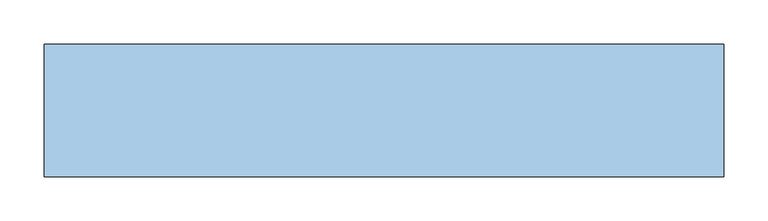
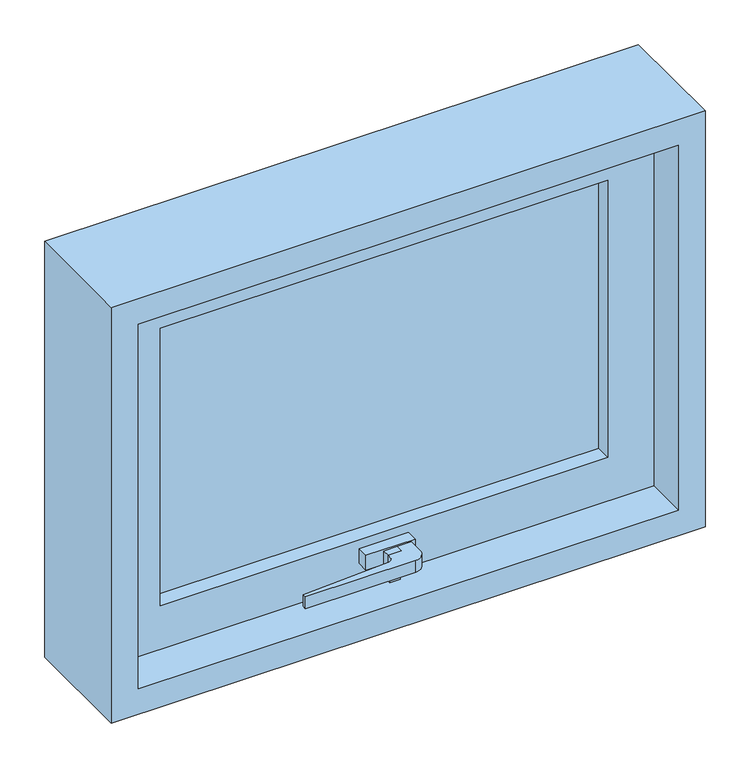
"""IFC4 building model written with IfcOpenShell, lengths in millimetres: window geometry, Janela maxim-ar - 1 Painel Paramétrica : Janela Maxin ar 0.70."""

import ifcopenshell
import ifcopenshell.guid

model = None  # the IFC model being written
_history = None  # IfcOwnerHistory: only IFC2X3 demands one
_inside = {}  # id of a spatial element -> (the spatial element, [elements in it])
_under = {}  # id of a project, library or spatial element -> (it, [spatial elements below it])
_declared = {}  # id of a project -> (the project, [libraries it declares])
_typed = {}  # id of a type object -> (the type object, [elements of that type])
_made_of = {}  # id of a material, layer set ... -> (it, [elements and type objects made of it])


def new_model(schema):
    """Start an empty IFC model of exactly this schema.

    Asked for "IFC4X3", IfcOpenShell would pick the latest addendum, in which some entities
    have other attributes; the version numbers below select the first issue.
    IFC2X3 requires an IfcOwnerHistory on every rooted entity: one is made here for all.
    """
    global model, _history
    if schema == "IFC4X3":
        model = ifcopenshell.file(schema_version=(4, 3, 0, 0))
    else:
        model = ifcopenshell.file(schema=schema)
    _inside.clear()
    _under.clear()
    _declared.clear()
    _typed.clear()
    _made_of.clear()
    _history = None
    if model.schema == "IFC2X3":
        org = make("IfcOrganization", Name="unknown")
        user = make(
            "IfcPersonAndOrganization",
            ThePerson=make("IfcPerson", FamilyName="unknown"),
            TheOrganization=org,
        )
        app = make(
            "IfcApplication",
            ApplicationDeveloper=org,
            Version="unknown",
            ApplicationFullName="unknown",
            ApplicationIdentifier="unknown",
        )
        _history = make(
            "IfcOwnerHistory",
            OwningUser=user,
            OwningApplication=app,
            ChangeAction="ADDED",
            CreationDate=0,
        )
    return model


def make(cls, **values):
    """One entity of the class cls with the attributes given. An attribute that is None is left unset."""
    return model.create_entity(
        cls, **{name: value for name, value in values.items() if value is not None}
    )


def rooted(cls, **values):
    """An entity with a GlobalId (a new one), such as an element, a storey or a relation."""
    return make(cls, GlobalId=ifcopenshell.guid.new(), OwnerHistory=_history, **values)


def si_unit(unit_type, name, prefix=None):
    """IfcSIUnit, for example si_unit("LENGTHUNIT", "METRE", prefix="MILLI")."""
    return make("IfcSIUnit", UnitType=unit_type, Prefix=prefix, Name=name)


def assignment(units):
    """IfcUnitAssignment: the units of a project."""
    return None if units is None else make("IfcUnitAssignment", Units=units)


def point(xyz):
    """IfcCartesianPoint."""
    return None if xyz is None else make("IfcCartesianPoint", Coordinates=xyz)


def direction(xyz):
    """IfcDirection."""
    return None if xyz is None else make("IfcDirection", DirectionRatios=xyz)


def frame(location, z_axis=None, x_axis=None):
    """IfcAxis2Placement3D, a coordinate frame: its origin and axes. An axis left out is left unset."""
    return make(
        "IfcAxis2Placement3D",
        Location=point(location),
        Axis=direction(z_axis),
        RefDirection=direction(x_axis),
    )


def frame_2d(location, x_axis=None):
    """IfcAxis2Placement2D, a coordinate frame in the plane: its origin and x axis."""
    return make(
        "IfcAxis2Placement2D", Location=point(location), RefDirection=direction(x_axis)
    )


def origin():
    """The frame at (0, 0, 0) with its axes left unset."""
    return frame((0.0, 0.0, 0.0))


def place(relative_to, where):
    """IfcLocalPlacement: puts the frame where relative to a parent placement (None: the world)."""
    return make(
        "IfcLocalPlacement", PlacementRelTo=relative_to, RelativePlacement=where
    )


def context(
    kind, dimensions, precision=None, world=None, true_north=None, identifier=None
):
    """IfcGeometricRepresentationContext, for example the 3D "Model" context."""
    return make(
        "IfcGeometricRepresentationContext",
        ContextIdentifier=identifier,
        ContextType=kind,
        CoordinateSpaceDimension=dimensions,
        Precision=precision,
        WorldCoordinateSystem=world,
        TrueNorth=true_north,
    )


def project(units=None, contexts=None):
    """IfcProject with its units and contexts."""
    return rooted(
        "IfcProject",
        Name="project",
        RepresentationContexts=contexts,
        UnitsInContext=assignment(units),
    )


def spatial(cls, under=None, at=None, **own):
    """A site, building, storey or space (cls), placed at a placement, below another one or the project."""
    s = rooted(cls, ObjectPlacement=at, **own)
    if under is not None:
        _under.setdefault(under.id(), (under, []))[1].append(s)
    return s


def polyline(points):
    """IfcPolyline through the points."""
    return make("IfcPolyline", Points=[point(p) for p in points])


def circle_curve(where, radius):
    """IfcCircle in the frame where."""
    return make("IfcCircle", Position=where, Radius=radius)


def trimmed(basis, trim1, trim2, sense, master):
    """IfcTrimmedCurve: the piece of a basis curve between two trims."""
    return make(
        "IfcTrimmedCurve",
        BasisCurve=basis,
        Trim1=trim1,
        Trim2=trim2,
        SenseAgreement=sense,
        MasterRepresentation=master,
    )


def segment(curve, same_sense, transition):
    """IfcCompositeCurveSegment."""
    return make(
        "IfcCompositeCurveSegment",
        Transition=transition,
        SameSense=same_sense,
        ParentCurve=curve,
    )


def composite_curve(segments, self_intersect=None):
    """IfcCompositeCurve: segments joined end to end."""
    return make("IfcCompositeCurve", Segments=segments, SelfIntersect=self_intersect)


def outline(outer, holes=None, kind="AREA"):
    """IfcArbitraryClosedProfileDef: a profile drawn as a closed curve; with holes, ...WithVoids."""
    if holes is None:
        return make("IfcArbitraryClosedProfileDef", ProfileType=kind, OuterCurve=outer)
    return make(
        "IfcArbitraryProfileDefWithVoids",
        ProfileType=kind,
        OuterCurve=outer,
        InnerCurves=holes,
    )


def extrude(swept, where, along, depth):
    """IfcExtrudedAreaSolid: the profile swept, set in the frame where, extruded along a direction by depth."""
    return make(
        "IfcExtrudedAreaSolid",
        SweptArea=swept,
        Position=where,
        ExtrudedDirection=direction(along),
        Depth=depth,
    )


def shape(context_of_items, identifier, shape_type, items):
    """IfcShapeRepresentation: the items that make up one representation, for example the "Body"."""
    return make(
        "IfcShapeRepresentation",
        ContextOfItems=context_of_items,
        RepresentationIdentifier=identifier,
        RepresentationType=shape_type,
        Items=items,
    )


def source(mapping_origin, context_of_items, identifier, shape_type, items):
    """IfcRepresentationMap: a shape defined once, which mapped items show again and again."""
    return make(
        "IfcRepresentationMap",
        MappingOrigin=mapping_origin,
        MappedRepresentation=shape(context_of_items, identifier, shape_type, items),
    )


def transform(
    local_origin,
    x_axis=None,
    y_axis=None,
    z_axis=None,
    scale=None,
    scale2=None,
    scale3=None,
    uniform=True,
):
    """IfcCartesianTransformationOperator3D, or its non-uniform kind. x_axis, y_axis, z_axis: its Axis1, 2, 3."""
    if uniform:
        return make(
            "IfcCartesianTransformationOperator3D",
            Axis1=direction(x_axis),
            Axis2=direction(y_axis),
            LocalOrigin=point(local_origin),
            Scale=scale,
            Axis3=direction(z_axis),
        )
    return make(
        "IfcCartesianTransformationOperator3DnonUniform",
        Axis1=direction(x_axis),
        Axis2=direction(y_axis),
        LocalOrigin=point(local_origin),
        Scale=scale,
        Axis3=direction(z_axis),
        Scale2=scale2,
        Scale3=scale3,
    )


def mapped(mapping_source, mapping_target):
    """IfcMappedItem: shows the shape of a source again, moved by a transform."""
    return make(
        "IfcMappedItem", MappingSource=mapping_source, MappingTarget=mapping_target
    )


def made_of(thing, what):
    """Note that an element or type object is made of a material, layer set ...; save() writes the relation."""
    if what is not None:
        _made_of.setdefault(what.id(), (what, []))[1].append(thing)
    return thing


def element(
    cls,
    number,
    at=None,
    inside=None,
    cuts=None,
    type_object=None,
    material=None,
    context=None,
    identifier="Body",
    shape_type=None,
    held_by="IfcProductDefinitionShape",
    body=None,
    shapes=None,
    **own,
):
    """One element of the class cls, such as IfcWall. Its Tag is "e" and its number.

    at: its placement. inside: the storey or other place that contains it. cuts: it is an
    opening in that element (IfcRelVoidsElement). A single representation is given by context,
    identifier, shape_type and body (its items); several are given by shapes. held_by: the class
    of the entity that holds the representations. save() writes the other relations.
    """
    e = rooted(cls, Tag="e%d" % number, ObjectPlacement=at, **own)
    if body is not None:
        shapes = [shape(context, identifier, shape_type, body)]
    if shapes is not None:
        e.Representation = make(held_by, Representations=shapes)
    if inside is not None:
        _inside.setdefault(inside.id(), (inside, []))[1].append(e)
    if cuts is not None:
        rooted(
            "IfcRelVoidsElement", RelatingBuildingElement=cuts, RelatedOpeningElement=e
        )
    if type_object is not None:
        _typed.setdefault(type_object.id(), (type_object, []))[1].append(e)
    return made_of(e, material)


def aggregate(whole, parts):
    """IfcRelAggregates: a whole, such as a stair, and the parts it consists of."""
    return rooted("IfcRelAggregates", RelatingObject=whole, RelatedObjects=parts)


def save(model, path):
    """Write the relations noted so far, then the file.

    IfcRelAggregates (storeys below a building ...), IfcRelContainedInSpatialStructure (elements
    in a storey), IfcRelDefinesByType, IfcRelAssociatesMaterial and IfcRelDeclares: one each for
    every whole, place, type object, material and project.
    """
    for whole, parts in _under.values():
        aggregate(whole, parts)
    for where, things in _inside.values():
        rooted(
            "IfcRelContainedInSpatialStructure",
            RelatedElements=things,
            RelatingStructure=where,
        )
    for kind, things in _typed.values():
        rooted("IfcRelDefinesByType", RelatedObjects=things, RelatingType=kind)
    for what, things in _made_of.values():
        rooted("IfcRelAssociatesMaterial", RelatedObjects=things, RelatingMaterial=what)
    for by, libraries in _declared.values():
        rooted("IfcRelDeclares", RelatingContext=by, RelatedDefinitions=libraries)
    model.write(path)


def window_13409327(model_context):
    return source(origin(), model_context, "Body", "SweptSolid", [
        extrude(outline(composite_curve([segment(polyline([(9.0, -45.0), (9.0, -35.0), (27.0, -35.0), (27.0, -55.0)]), True, "CONTINUOUS"), segment(trimmed(circle_curve(frame_2d((13.0, -55.0)), 14.0), [point((27.0, -55.0))], [point((13.0, -69.0))], False, "CARTESIAN"), True, "CONTINUOUS"), segment(polyline([(13.0, -69.0), (-130.0, -69.0), (-130.0, -64.0), (-14.6705919, -56.9888756)]), True, "CONTINUOUS"), segment(trimmed(circle_curve(frame_2d((-15.0369126, -50.9630874)), 6.0369126), [point((-14.6705919, -56.9888756))], [point((-9.0, -50.9630874))], True, "CARTESIAN"), True, "CONTINUOUS"), segment(polyline([(-9.0, -50.9630874), (-9.0, -45.0), (9.0, -45.0)]), True, "CONTINUOUS")], self_intersect=False)), frame((0.0, 0.0, 864.4825029), z_axis=(0.0, 0.0, 1.0), x_axis=(1.0, 0.0, 0.0)), (0.0, 0.0, 1.0), 16.0),
        extrude(outline(polyline([(880.4825029, 9.0), (880.4825029, -9.0), (860.4961014, -9.0), (842.4825029, -6.9842809), (842.4825029, 7.0348924), (860.4961014, 9.0), (880.4825029, 9.0)])), frame((0.0, -45.0, 0.0), z_axis=(0.0, 1.0, 0.0), x_axis=(0.0, 0.0, 1.0)), (0.0, 0.0, 1.0), 10.0),
        extrude(outline(polyline([(32.0, -35.0), (-32.0, -35.0), (-32.0, -20.0), (32.0, -20.0), (32.0, -35.0)])), frame((0.0, 0.0, 862.4825029), z_axis=(0.0, 0.0, 1.0), x_axis=(1.0, 0.0, 0.0)), (0.0, 0.0, 1.0), 20.0),
        extrude(outline(polyline([(835.0, -350.0), (835.0, 350.0), (1335.0, 350.0), (1335.0, -350.0), (835.0, -350.0)]), holes=[polyline([(1275.0, -290.0), (1275.0, 290.0), (895.0, 290.0), (895.0, -290.0), (1275.0, -290.0)])]), frame((0.0, -20.0, 0.0), z_axis=(0.0, 1.0, 0.0), x_axis=(0.0, 0.0, 1.0)), (0.0, 0.0, 1.0), 40.0),
        extrude(outline(polyline([(800.0, -385.0), (800.0, 385.0), (1370.0, 385.0), (1370.0, -385.0), (800.0, -385.0)]), holes=[polyline([(1335.0, -350.0), (1335.0, 350.0), (835.0, 350.0), (835.0, -350.0), (1335.0, -350.0)])]), frame((0.0, -75.0, 0.0), z_axis=(0.0, 1.0, 0.0), x_axis=(0.0, 0.0, 1.0)), (0.0, 0.0, 1.0), 150.0),
        extrude(outline(polyline([(290.0, 15.0), (290.0, 0.0), (-290.0, 0.0), (-290.0, 15.0), (290.0, 15.0)])), frame((0.0, 0.0, 895.0), z_axis=(0.0, 0.0, 1.0), x_axis=(1.0, 0.0, 0.0)), (0.0, 0.0, 1.0), 380.0),
    ])


if __name__ == "__main__":
    model = new_model("IFC4")
    model_context = context("Model", 3, world=origin())
    ifc_project = project(units=[si_unit("LENGTHUNIT", "METRE", prefix="MILLI")], contexts=[model_context])
    site = spatial("IfcSite", under=ifc_project)
    building = spatial("IfcBuilding", under=site)
    placement = place(None, origin())
    window_shape = window_13409327(model_context)
    element("IfcWindow", 1, ObjectType="Janela maxim-ar - 1 Painel Paramétrica : Janela Maxin ar 0.70", at=placement, inside=building, context=model_context, shape_type="MappedRepresentation", body=[
        mapped(window_shape, transform((0.0, 0.0, 0.0), x_axis=(1.0, 0.0, 0.0), y_axis=(0.0, 1.0, 0.0), z_axis=(0.0, 0.0, 1.0))),
    ])
    save(model, "model.ifc")
